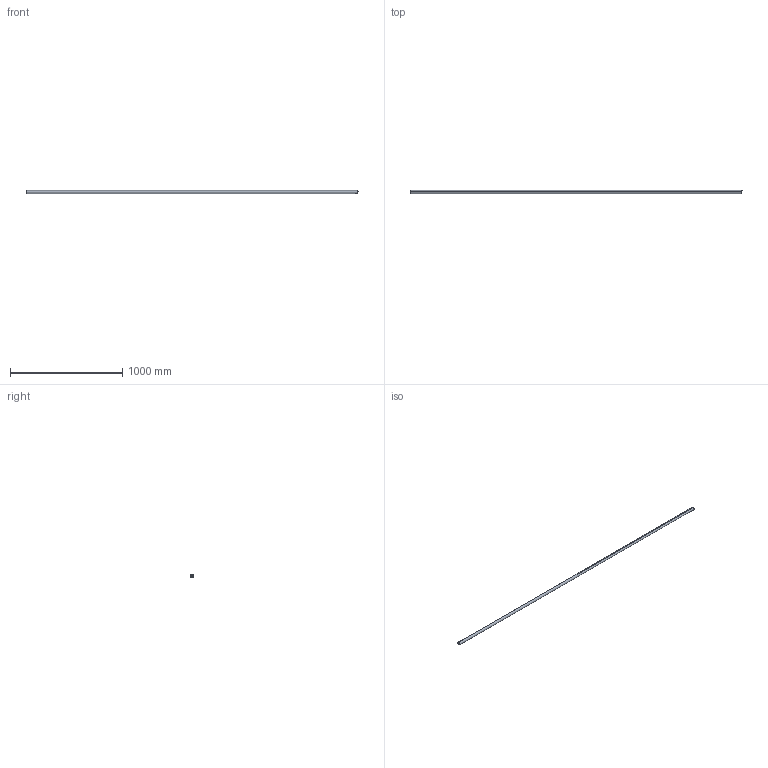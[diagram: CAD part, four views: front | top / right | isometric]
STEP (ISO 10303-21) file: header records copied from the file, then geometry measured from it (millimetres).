
FILE_DESCRIPTION (( 'STEP AP214' ), '1' );
FILE_NAME ('CCJ029-REP.332 - LISSE GARDE CORPS AMOVIBLE A2-A3.STEP', '2025-11-04T12:49:48', ( '' ), ( '' ), 'SwSTEP 2.0', 'SolidWorks 2021', '' );
FILE_SCHEMA (( 'AUTOMOTIVE_DESIGN' ));
Length unit declared in the file: millimetre
Products named in the file (1): CCJ029-REP.332 - LISSE GARDE CORPS AMOVIBLE A2-A3
Bounding box: 2959.82 x 26.81 x 26.9 mm (x, y, z)
Volume: 525087.2 mm3; surface area: 457057.6 mm2
Topology: 1 solids, 1 shells, 10 faces, 24 edges, 12 vertices
Faces by surface type: cylinder 10
Entity records: 832 total; most frequent: CARTESIAN_POINT 589, ORIENTED_EDGE 48, DIRECTION 34, EDGE_CURVE 24, B_SPLINE_CURVE_WITH_KNOTS 12, VECTOR 12, LINE 12, VERTEX_POINT 12
